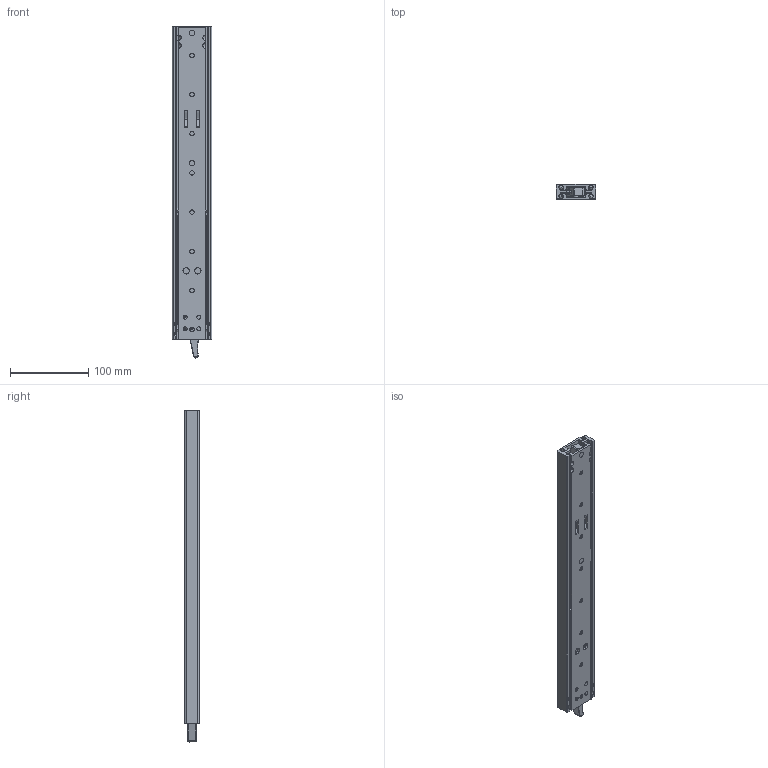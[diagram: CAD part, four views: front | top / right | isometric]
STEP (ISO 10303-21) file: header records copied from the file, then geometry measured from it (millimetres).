
FILE_DESCRIPTION (( 'STEP AP203' ), '1' );
FILE_NAME ('61_12285_06-closed.STEP', '2022-03-25T09:50:55', ( '' ), ( '' ), 'SwSTEP 2.0', 'SolidWorks 2021', '' );
FILE_SCHEMA (( 'CONFIG_CONTROL_DESIGN' ));
Length unit declared in the file: millimetre
Products named in the file (12): 61_12285_06-closed; 301_000_008_Fitted; 61_13331_Pin Fitted; 61_12274; 61_12282; 61_12275; 61_12719; 370_002_070; 61_12278_08; 400_000_004; 61_12280_06_Beam Assembled - Stop Raises ; 61_12279_06
Assembly tree (28 placements, depth 2):
  61_12285_06-closed
    61_12279_06
    61_12280_06_Beam Assembled - Stop Raises   x2
    61_13331_Pin Fitted  x4
    61_12282
    301_000_008_Fitted  x2
    61_12275
    61_12274
    370_002_070  x2
    61_12719  x2
    400_000_004  x8
    61_12278_08  x4
Bounding box: 50.7 x 19.75 x 423.69 mm (x, y, z)
Volume: 231781.1 mm3; surface area: 161645 mm2
Topology: 28 solids, 28 shells, 1180 faces, 3216 edges, 1995 vertices
Faces by surface type: cylinder 556, plane 285, sphere 121, torus 93, cone 80, bspline 45
Entity records: 27315 total; most frequent: CARTESIAN_POINT 6681, DIRECTION 4136, ORIENTED_EDGE 3922, EDGE_CURVE 1961, AXIS2_PLACEMENT_3D 1642, VERTEX_POINT 1208, EDGE_LOOP 887, CIRCLE 880
